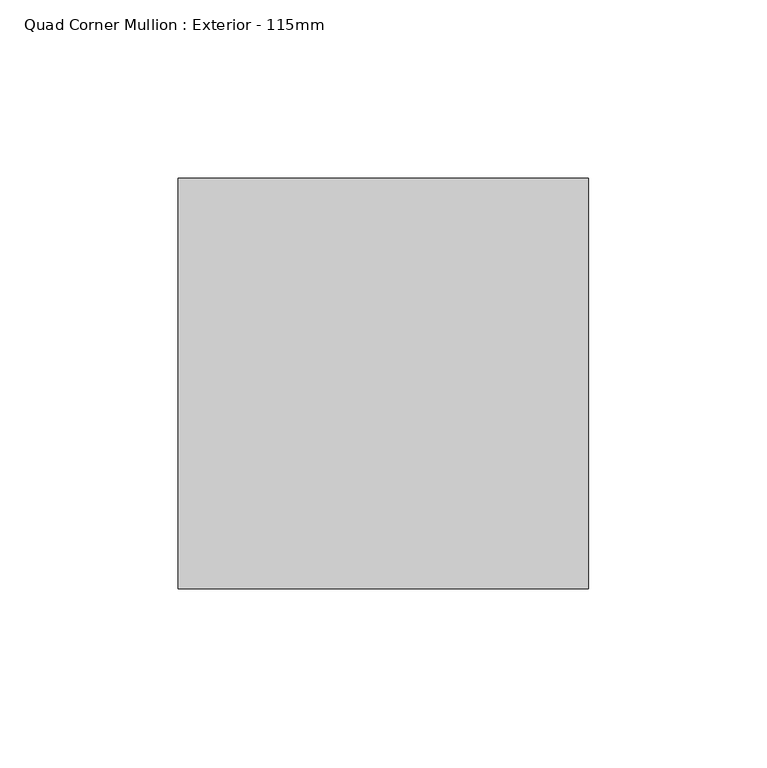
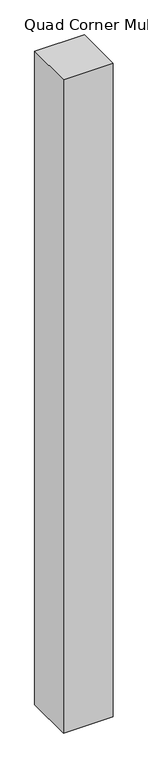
"""IFC4 building model written with IfcOpenShell, lengths in millimetres: member geometry, Quad Corner Mullion : Exterior - 115mm."""

from ifc_helpers import new_model, si_unit, frame, origin, place, context, project, spatial, polyline, outline, extrude, source, transform, mapped, element, save


def quad_corner_mullion_exterior_115mm_d26d6459(model_context):
    return source(origin(), model_context, "Body", "SweptSolid", [
        extrude(outline(polyline([(7.5, 107.5), (7.5, -7.5), (-107.5, -7.5), (-107.5, 107.5), (7.5, 107.5)])), frame((0.0, 0.0, -1600.0), z_axis=(0.0, 0.0, 1.0), x_axis=(1.0, 0.0, 0.0)), (0.0, 0.0, 1.0), 1600.0),
    ])


if __name__ == "__main__":
    model = new_model("IFC4")
    model_context = context("Model", 3, world=origin())
    ifc_project = project(units=[si_unit("LENGTHUNIT", "METRE", prefix="MILLI")], contexts=[model_context])
    site = spatial("IfcSite", under=ifc_project)
    building = spatial("IfcBuilding", under=site)
    placement = place(None, origin())
    quad_corner_mullion_exterior_115mm_shape = quad_corner_mullion_exterior_115mm_d26d6459(model_context)
    element("IfcMember", 1, ObjectType="Quad Corner Mullion : Exterior - 115mm", at=placement, inside=building, context=model_context, shape_type="MappedRepresentation", body=[
        mapped(quad_corner_mullion_exterior_115mm_shape, transform((0.0, 0.0, 0.0), x_axis=(1.0, 0.0, 0.0), y_axis=(0.0, 1.0, 0.0), z_axis=(0.0, 0.0, 1.0))),
    ])
    save(model, "model.ifc")
